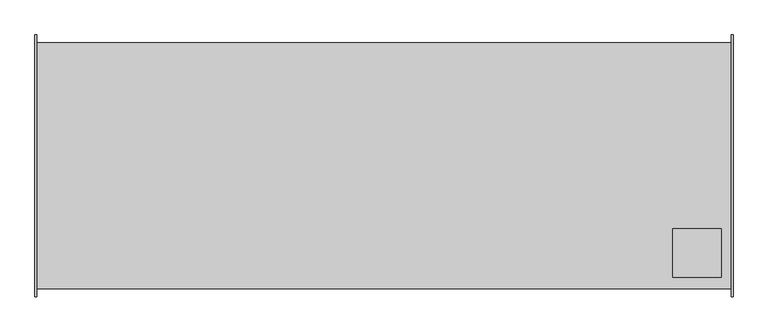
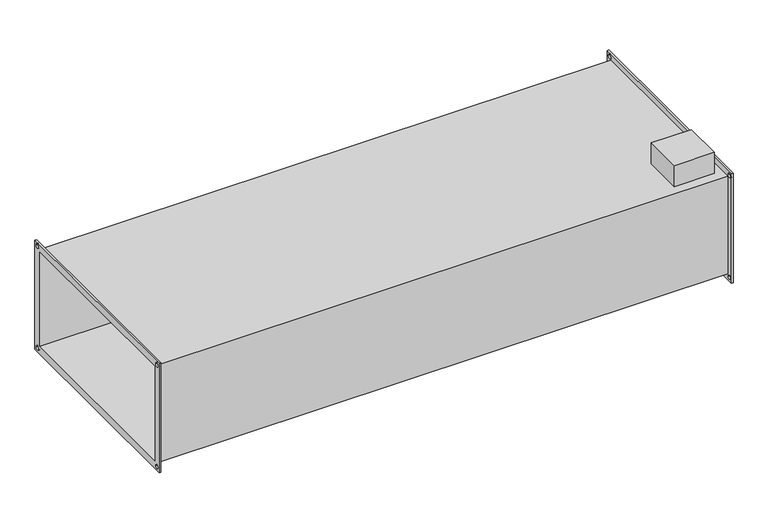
"""IFC4 building model written with IfcOpenShell, lengths in millimetres: proxy geometry."""

from ifc_helpers import new_model, si_unit, frame, origin, place, context, project, spatial, polyline, circle_curve, source, transform, mapped, element, save
from ifc_brep_helpers import plane_surface, revolved_surface, advanced_brep


def mechanical_equipment_90fcd9c5(model_context):
    return source(origin(), model_context, "Body", "AdvancedBrep", [
        advanced_brep(
        [(716.0, -254.0, 129.0), (-716.0, -254.0, 129.0), (-716.0, -254.0, -129.0), (716.0, -254.0, -129.0), (-716.0, 254.0, -129.0), (716.0, 254.0, -129.0), (-716.0, 254.0, 129.0), (716.0, 254.0, 129.0), (596.0, -130.0, 129.0), (696.0, -130.0, 129.0), (696.0, -230.0, 129.0), (596.0, -230.0, 129.0), (696.0, -130.0, 185.0), (596.0, -130.0, 185.0), (596.0, -230.0, 185.0), (696.0, -230.0, 185.0), (-720.0, -270.0, 145.0), (-720.0, 270.0, 145.0), (-720.0, 270.0, -145.0), (-720.0, -270.0, -145.0), (-720.0, -250.0, 125.0), (-720.0, -250.0, -125.0), (-720.0, 250.0, -125.0), (-720.0, 250.0, 125.0), (-720.0, -265.0, 135.0), (-720.0, -255.0, 135.0), (-720.0, -265.0, -135.0), (-720.0, -255.0, -135.0), (-720.0, 255.0, -135.0), (-720.0, 265.0, -135.0), (-720.0, 255.0, 135.0), (-720.0, 265.0, 135.0), (-716.0, -270.0, 145.0), (-716.0, -270.0, -145.0), (-716.0, 270.0, -145.0), (-716.0, 270.0, 145.0), (-716.0, -255.0, 135.0), (-716.0, -265.0, 135.0), (-716.0, -255.0, -135.0), (-716.0, -265.0, -135.0), (-716.0, 265.0, -135.0), (-716.0, 255.0, -135.0), (-716.0, 265.0, 135.0), (-716.0, 255.0, 135.0), (716.0, 270.0, 145.0), (716.0, 270.0, -145.0), (716.0, -270.0, -145.0), (716.0, -270.0, 145.0), (716.0, -265.0, 135.0), (716.0, -255.0, 135.0), (716.0, -265.0, -135.0), (716.0, -255.0, -135.0), (716.0, 255.0, -135.0), (716.0, 265.0, -135.0), (716.0, 255.0, 135.0), (716.0, 265.0, 135.0), (720.0, 270.0, 145.0), (720.0, -270.0, 145.0), (720.0, -270.0, -145.0), (720.0, 270.0, -145.0), (720.0, 250.0, 125.0), (720.0, 250.0, -125.0), (720.0, -250.0, -125.0), (720.0, -250.0, 125.0), (720.0, -255.0, 135.0), (720.0, -265.0, 135.0), (720.0, -255.0, -135.0), (720.0, -265.0, -135.0), (720.0, 265.0, -135.0), (720.0, 255.0, -135.0), (720.0, 265.0, 135.0), (720.0, 255.0, 135.0)],
        [
            (0, 1),
            (1, 2),
            (2, 3),
            (3, 0),
            (2, 4),
            (4, 5),
            (5, 3),
            (4, 6),
            (6, 7),
            (7, 5),
            (0, 7),
            (6, 1),
            (8, 9),
            (9, 10),
            (10, 11),
            (11, 8),
            (12, 13),
            (13, 14),
            (14, 15),
            (15, 12),
            (12, 9),
            (8, 13),
            (11, 14),
            (10, 15),
            (16, 17),
            (17, 18),
            (18, 19),
            (19, 16),
            (20, 21),
            (21, 22),
            (22, 23),
            (23, 20),
            (24, 25, circle_curve(frame((-720.0, -260.0, 135.0), z_axis=(1.0, 0.0, 0.0), x_axis=(0.0, 1.0, 0.0)), 5.0)),
            (25, 24, circle_curve(frame((-720.0, -260.0, 135.0), z_axis=(1.0, 0.0, 0.0), x_axis=(0.0, 1.0, 0.0)), 5.0)),
            (26, 27, circle_curve(frame((-720.0, -260.0, -135.0), z_axis=(1.0, 0.0, 0.0), x_axis=(0.0, 1.0, 0.0)), 5.0)),
            (27, 26, circle_curve(frame((-720.0, -260.0, -135.0), z_axis=(1.0, 0.0, 0.0), x_axis=(0.0, 1.0, 0.0)), 5.0)),
            (28, 29, circle_curve(frame((-720.0, 260.0, -135.0), z_axis=(1.0, 0.0, 0.0), x_axis=(0.0, 1.0, 0.0)), 5.0)),
            (29, 28, circle_curve(frame((-720.0, 260.0, -135.0), z_axis=(1.0, 0.0, 0.0), x_axis=(0.0, 1.0, 0.0)), 5.0)),
            (30, 31, circle_curve(frame((-720.0, 260.0, 135.0), z_axis=(1.0, 0.0, 0.0), x_axis=(0.0, 1.0, 0.0)), 5.0)),
            (31, 30, circle_curve(frame((-720.0, 260.0, 135.0), z_axis=(1.0, 0.0, 0.0), x_axis=(0.0, 1.0, 0.0)), 5.0)),
            (32, 33),
            (33, 34),
            (34, 35),
            (35, 32),
            (36, 37, circle_curve(frame((-716.0, -260.0, 135.0), z_axis=(-1.0, 0.0, 0.0), x_axis=(0.0, 1.0, 0.0)), 5.0)),
            (37, 36, circle_curve(frame((-716.0, -260.0, 135.0), z_axis=(-1.0, 0.0, 0.0), x_axis=(0.0, 1.0, 0.0)), 5.0)),
            (38, 39, circle_curve(frame((-716.0, -260.0, -135.0), z_axis=(-1.0, 0.0, 0.0), x_axis=(0.0, 1.0, 0.0)), 5.0)),
            (39, 38, circle_curve(frame((-716.0, -260.0, -135.0), z_axis=(-1.0, 0.0, 0.0), x_axis=(0.0, 1.0, 0.0)), 5.0)),
            (40, 41, circle_curve(frame((-716.0, 260.0, -135.0), z_axis=(-1.0, 0.0, 0.0), x_axis=(0.0, 1.0, 0.0)), 5.0)),
            (41, 40, circle_curve(frame((-716.0, 260.0, -135.0), z_axis=(-1.0, 0.0, 0.0), x_axis=(0.0, 1.0, 0.0)), 5.0)),
            (42, 43, circle_curve(frame((-716.0, 260.0, 135.0), z_axis=(-1.0, 0.0, 0.0), x_axis=(0.0, 1.0, 0.0)), 5.0)),
            (43, 42, circle_curve(frame((-716.0, 260.0, 135.0), z_axis=(-1.0, 0.0, 0.0), x_axis=(0.0, 1.0, 0.0)), 5.0)),
            (19, 33),
            (32, 16),
            (18, 34),
            (17, 35),
            (44, 45),
            (45, 46),
            (46, 47),
            (47, 44),
            (48, 49, circle_curve(frame((716.0, -260.0, 135.0), z_axis=(1.0, 0.0, 0.0), x_axis=(0.0, 1.0, 0.0)), 5.0)),
            (49, 48, circle_curve(frame((716.0, -260.0, 135.0), z_axis=(1.0, 0.0, 0.0), x_axis=(0.0, 1.0, 0.0)), 5.0)),
            (50, 51, circle_curve(frame((716.0, -260.0, -135.0), z_axis=(1.0, 0.0, 0.0), x_axis=(0.0, 1.0, 0.0)), 5.0)),
            (51, 50, circle_curve(frame((716.0, -260.0, -135.0), z_axis=(1.0, 0.0, 0.0), x_axis=(0.0, 1.0, 0.0)), 5.0)),
            (52, 53, circle_curve(frame((716.0, 260.0, -135.0), z_axis=(1.0, 0.0, 0.0), x_axis=(0.0, 1.0, 0.0)), 5.0)),
            (53, 52, circle_curve(frame((716.0, 260.0, -135.0), z_axis=(1.0, 0.0, 0.0), x_axis=(0.0, 1.0, 0.0)), 5.0)),
            (54, 55, circle_curve(frame((716.0, 260.0, 135.0), z_axis=(1.0, 0.0, 0.0), x_axis=(0.0, 1.0, 0.0)), 5.0)),
            (55, 54, circle_curve(frame((716.0, 260.0, 135.0), z_axis=(1.0, 0.0, 0.0), x_axis=(0.0, 1.0, 0.0)), 5.0)),
            (56, 57),
            (57, 58),
            (58, 59),
            (59, 56),
            (60, 61),
            (61, 62),
            (62, 63),
            (63, 60),
            (64, 65, circle_curve(frame((720.0, -260.0, 135.0), z_axis=(-1.0, 0.0, 0.0), x_axis=(0.0, 1.0, 0.0)), 5.0)),
            (65, 64, circle_curve(frame((720.0, -260.0, 135.0), z_axis=(-1.0, 0.0, 0.0), x_axis=(0.0, 1.0, 0.0)), 5.0)),
            (66, 67, circle_curve(frame((720.0, -260.0, -135.0), z_axis=(-1.0, 0.0, 0.0), x_axis=(0.0, 1.0, 0.0)), 5.0)),
            (67, 66, circle_curve(frame((720.0, -260.0, -135.0), z_axis=(-1.0, 0.0, 0.0), x_axis=(0.0, 1.0, 0.0)), 5.0)),
            (68, 69, circle_curve(frame((720.0, 260.0, -135.0), z_axis=(-1.0, 0.0, 0.0), x_axis=(0.0, 1.0, 0.0)), 5.0)),
            (69, 68, circle_curve(frame((720.0, 260.0, -135.0), z_axis=(-1.0, 0.0, 0.0), x_axis=(0.0, 1.0, 0.0)), 5.0)),
            (70, 71, circle_curve(frame((720.0, 260.0, 135.0), z_axis=(-1.0, 0.0, 0.0), x_axis=(0.0, 1.0, 0.0)), 5.0)),
            (71, 70, circle_curve(frame((720.0, 260.0, 135.0), z_axis=(-1.0, 0.0, 0.0), x_axis=(0.0, 1.0, 0.0)), 5.0)),
            (47, 57),
            (56, 44),
            (46, 58),
            (45, 59),
            (23, 60),
            (63, 20),
            (22, 61),
            (21, 62),
            (24, 37),
            (36, 25),
            (48, 65),
            (64, 49),
            (26, 39),
            (38, 27),
            (50, 67),
            (66, 51),
            (28, 41),
            (40, 29),
            (52, 69),
            (68, 53),
            (30, 43),
            (42, 31),
            (54, 71),
            (70, 55),
        ],
        [
            plane_surface(frame((716.0, -254.0, 129.0), z_axis=(0.0, -1.0, 0.0), x_axis=(-1.0, 0.0, 0.0))),
            plane_surface(frame((716.0, -254.0, -129.0), z_axis=(0.0, 0.0, -1.0), x_axis=(-1.0, 0.0, 0.0))),
            plane_surface(frame((716.0, 254.0, -129.0), z_axis=(0.0, 1.0, 0.0), x_axis=(-1.0, 0.0, 0.0))),
            plane_surface(frame((716.0, 254.0, 129.0), z_axis=(0.0, 0.0, 1.0), x_axis=(-1.0, 0.0, 0.0))),
            plane_surface(frame((596.0, -130.0, 185.0), z_axis=(0.0, 0.0, 1.0), x_axis=(-1.0, 0.0, 0.0))),
            plane_surface(frame((696.0, -130.0, 185.0), z_axis=(0.0, 1.0, 0.0), x_axis=(0.0, 0.0, -1.0))),
            plane_surface(frame((596.0, -130.0, 185.0), z_axis=(-1.0, 0.0, 0.0), x_axis=(0.0, 0.0, -1.0))),
            plane_surface(frame((596.0, -230.0, 185.0), z_axis=(0.0, -1.0, 0.0), x_axis=(0.0, 0.0, -1.0))),
            plane_surface(frame((696.0, -230.0, 185.0), z_axis=(1.0, 0.0, 0.0), x_axis=(0.0, 0.0, -1.0))),
            plane_surface(frame((-720.0, -270.0, 145.0), z_axis=(-1.0, 0.0, 0.0), x_axis=(0.0, 0.0, 1.0))),
            plane_surface(frame((-716.0, -270.0, 145.0), z_axis=(1.0, 0.0, 0.0), x_axis=(0.0, 0.0, -1.0))),
            plane_surface(frame((-716.0, -270.0, 145.0), z_axis=(0.0, -1.0, 0.0), x_axis=(-1.0, 0.0, 0.0))),
            plane_surface(frame((-716.0, -270.0, -145.0), z_axis=(0.0, 0.0, -1.0), x_axis=(-1.0, 0.0, 0.0))),
            plane_surface(frame((-716.0, 270.0, -145.0), z_axis=(0.0, 1.0, 0.0), x_axis=(-1.0, 0.0, 0.0))),
            plane_surface(frame((-716.0, 270.0, 145.0), z_axis=(0.0, 0.0, 1.0), x_axis=(-1.0, 0.0, 0.0))),
            plane_surface(frame((716.0, 250.0, -125.0), z_axis=(-1.0, 0.0, 0.0), x_axis=(0.0, 0.0, 1.0))),
            plane_surface(frame((720.0, 250.0, -125.0), z_axis=(1.0, 0.0, 0.0), x_axis=(0.0, 0.0, -1.0))),
            plane_surface(frame((720.0, 270.0, 145.0), z_axis=(0.0, 0.0, 1.0), x_axis=(-1.0, 0.0, 0.0))),
            plane_surface(frame((720.0, -270.0, 145.0), z_axis=(0.0, -1.0, 0.0), x_axis=(-1.0, 0.0, 0.0))),
            plane_surface(frame((720.0, -270.0, -145.0), z_axis=(0.0, 0.0, -1.0), x_axis=(-1.0, 0.0, 0.0))),
            plane_surface(frame((720.0, 270.0, -145.0), z_axis=(0.0, 1.0, 0.0), x_axis=(-1.0, 0.0, 0.0))),
            plane_surface(frame((-716.0, -250.0, 125.0), z_axis=(0.0, 0.0, -1.0), x_axis=(-1.0, 0.0, 0.0))),
            plane_surface(frame((-716.0, 250.0, 125.0), z_axis=(0.0, -1.0, 0.0), x_axis=(-1.0, 0.0, 0.0))),
            plane_surface(frame((-716.0, 250.0, -125.0), z_axis=(0.0, 0.0, 1.0), x_axis=(-1.0, 0.0, 0.0))),
            plane_surface(frame((-716.0, -250.0, -125.0), z_axis=(0.0, 1.0, 0.0), x_axis=(-1.0, 0.0, 0.0))),
            revolved_surface(polyline([(-716.0, -255.0, 135.0), (-720.0, -255.0, 135.0)]), (-720.0, -260.0, 135.0), (1.0, 0.0, 0.0)),
            revolved_surface(polyline([(720.0, -255.0, 135.0), (716.0, -255.0, 135.0)]), (-720.0, -260.0, 135.0), (1.0, 0.0, 0.0)),
            revolved_surface(polyline([(-716.0, -255.0, -135.0), (-720.0, -255.0, -135.0)]), (0.0, -260.0, -135.0), (1.0, 0.0, 0.0)),
            revolved_surface(polyline([(720.0, -255.0, -135.0), (716.0, -255.0, -135.0)]), (0.0, -260.0, -135.0), (1.0, 0.0, 0.0)),
            revolved_surface(polyline([(-716.0, 265.0, -135.0), (-720.0, 265.0, -135.0)]), (0.0, 260.0, -135.0), (1.0, 0.0, 0.0)),
            revolved_surface(polyline([(720.0, 265.0, -135.0), (716.0, 265.0, -135.0)]), (0.0, 260.0, -135.0), (1.0, 0.0, 0.0)),
            revolved_surface(polyline([(-716.0, 265.0, 135.0), (-720.0, 265.0, 135.0)]), (0.0, 260.0, 135.0), (1.0, 0.0, 0.0)),
            revolved_surface(polyline([(720.0, 265.0, 135.0), (716.0, 265.0, 135.0)]), (0.0, 260.0, 135.0), (1.0, 0.0, 0.0)),
        ],
        [
            (0, [[1, 2, 3, 4]]),
            (1, [[-3, 5, 6, 7]]),
            (2, [[-6, 8, 9, 10]]),
            (3, [[-1, 11, -9, 12], [13, 14, 15, 16]]),
            (4, [[17, 18, 19, 20]]),
            (5, [[-17, 21, -13, 22]]),
            (6, [[-18, -22, -16, 23]]),
            (7, [[-19, -23, -15, 24]]),
            (8, [[-20, -24, -14, -21]]),
            (9, [[25, 26, 27, 28], [29, 30, 31, 32], [33, 34], [35, 36], [37, 38], [39, 40]]),
            (10, [[41, 42, 43, 44], [-2, -12, -8, -5], [45, 46], [47, 48], [49, 50], [51, 52]]),
            (11, [[-28, 53, -41, 54]]),
            (12, [[-27, 55, -42, -53]]),
            (13, [[-26, 56, -43, -55]]),
            (14, [[-25, -54, -44, -56]]),
            (15, [[57, 58, 59, 60], [-4, -7, -10, -11], [61, 62], [63, 64], [65, 66], [67, 68]]),
            (16, [[69, 70, 71, 72], [73, 74, 75, 76], [77, 78], [79, 80], [81, 82], [83, 84]]),
            (17, [[-60, 85, -69, 86]]),
            (18, [[-59, 87, -70, -85]]),
            (19, [[-58, 88, -71, -87]]),
            (20, [[-57, -86, -72, -88]]),
            (21, [[-32, 89, -76, 90]]),
            (22, [[-31, 91, -73, -89]]),
            (23, [[-30, 92, -74, -91]]),
            (24, [[-29, -90, -75, -92]]),
            (25, [[93, -45, 94, -33]]),
            (26, [[95, -77, 96, -61]]),
            (25, [[-93, -34, -94, -46]]),
            (26, [[-95, -62, -96, -78]]),
            (27, [[97, -47, 98, -35]]),
            (28, [[99, -79, 100, -63]]),
            (27, [[-97, -36, -98, -48]]),
            (28, [[-99, -64, -100, -80]]),
            (29, [[101, -49, 102, -37]]),
            (30, [[103, -81, 104, -65]]),
            (29, [[-101, -38, -102, -50]]),
            (30, [[-103, -66, -104, -82]]),
            (31, [[105, -51, 106, -39]]),
            (32, [[107, -83, 108, -67]]),
            (31, [[-105, -40, -106, -52]]),
            (32, [[-107, -68, -108, -84]]),
        ],
    ),
    ])


if __name__ == "__main__":
    model = new_model("IFC4")
    model_context = context("Model", 3, world=origin())
    ifc_project = project(units=[si_unit("LENGTHUNIT", "METRE", prefix="MILLI")], contexts=[model_context])
    site = spatial("IfcSite", under=ifc_project)
    building = spatial("IfcBuilding", under=site)
    placement = place(None, origin())
    mechanical_equipment_shape = mechanical_equipment_90fcd9c5(model_context)
    element("IfcBuildingElementProxy", 1, Name="Mechanical Equipment", at=placement, inside=building, context=model_context, shape_type="MappedRepresentation", body=[
        mapped(mechanical_equipment_shape, transform((0.0, 0.0, 0.0), x_axis=(1.0, 0.0, 0.0), y_axis=(0.0, 1.0, 0.0), z_axis=(0.0, 0.0, 1.0))),
    ])
    save(model, "model.ifc")
